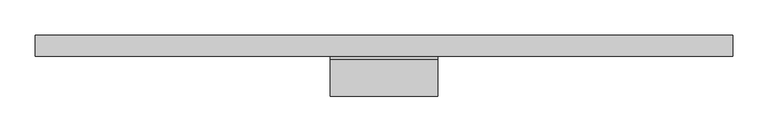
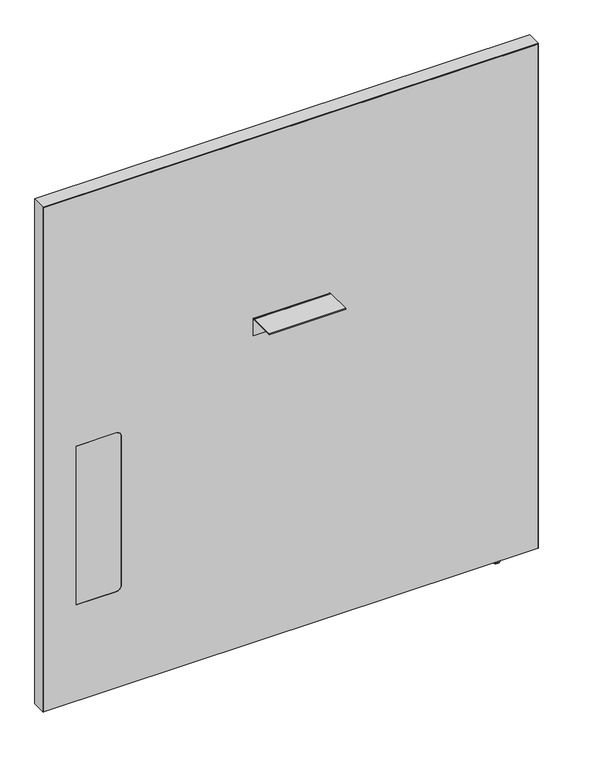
"""IFC4 building model written with IfcOpenShell, lengths in millimetres: furniture geometry, Steelcase - Answer Solution - Boundary Screen - Straight - Single Sided : 42H x 39W."""

from ifc_helpers import new_model, si_unit, point, frame, frame_2d, origin, place, context, project, spatial, polyline, circle_curve, ellipse_curve, trimmed, segment, composite_curve, outline, extrude, source, transform, mapped, element, save
from ifc_brep_helpers import plane_surface, cylinder_surface, revolved_surface, advanced_brep


def furniture_4b46f2a4(model_context):
    return source(origin(), model_context, "Body", "SolidModel", [
        extrude(outline(composite_curve([segment(polyline([(-86.8398151, 696.4680019), (-86.8398151, 698.5), (-34.9450855, 698.5)]), True, "CONTINUOUS"), segment(trimmed(circle_curve(frame_2d((-34.9450855, 693.2447477)), 5.2552523), [point((-34.9450855, 698.5))], [point((-29.6898332, 693.2447477))], False, "CARTESIAN"), True, "CONTINUOUS"), segment(polyline([(-29.6898332, 693.2447477), (-29.6898332, 660.4), (-31.7218162, 660.4), (-31.7218162, 693.0058743)]), True, "CONTINUOUS"), segment(trimmed(circle_curve(frame_2d((-35.1839438, 693.0058743)), 3.4621276), [point((-31.7218162, 693.0058743))], [point((-35.1839438, 696.4680019))], True, "CARTESIAN"), True, "CONTINUOUS"), segment(polyline([(-35.1839438, 696.4680019), (-86.8398151, 696.4680019)]), True, "CONTINUOUS")], self_intersect=False)), frame((-227.3808593, 0.0, 0.0), z_axis=(1.0, 0.0, 0.0), x_axis=(0.0, 1.0, 0.0)), (0.0, 0.0, 1.0), 152.4000969),
        advanced_brep(
        [(266.9286488, -23.7588726, 9.9059849), (266.9286488, -5.9309607, 9.9059849), (266.9286488, -14.8449166, 9.9059849), (266.9286488, -23.7588726, 2.9673238), (266.9286488, -5.9309607, 2.9673238), (266.9286488, -22.7915354, 2.9673238), (266.9286488, -6.8982978, 2.9673238), (266.9286488, -22.7915354, 1.6569081), (266.9286488, -6.8982978, 1.6569081), (266.9286488, -21.1346274, 0.0), (266.9286488, -8.5552059, 0.0), (266.9286488, -14.8449166, 0.0)],
        [
            (0, 1, circle_curve(frame((266.9286488, -14.8449166, 9.9059849), z_axis=(0.0, 0.0, 1.0), x_axis=(0.0, 1.0, 0.0)), 8.913956)),
            (1, 2),
            (2, 0),
            (1, 0, circle_curve(frame((266.9286488, -14.8449166, 9.9059849), z_axis=(0.0, 0.0, 1.0), x_axis=(0.0, 1.0, 0.0)), 8.913956)),
            (3, 4, circle_curve(frame((266.9286488, -14.8449166, 2.9673238), z_axis=(0.0, 0.0, 1.0), x_axis=(0.0, 1.0, 0.0)), 8.913956)),
            (4, 1),
            (0, 3),
            (4, 3, circle_curve(frame((266.9286488, -14.8449166, 2.9673238), z_axis=(0.0, 0.0, 1.0), x_axis=(0.0, 1.0, 0.0)), 8.913956)),
            (5, 6, circle_curve(frame((266.9286488, -14.8449166, 2.9673238), z_axis=(0.0, 0.0, 1.0), x_axis=(0.0, 1.0, 0.0)), 7.9466188)),
            (6, 4),
            (3, 5),
            (6, 5, circle_curve(frame((266.9286488, -14.8449166, 2.9673238), z_axis=(0.0, 0.0, 1.0), x_axis=(0.0, 1.0, 0.0)), 7.9466188)),
            (7, 8, circle_curve(frame((266.9286488, -14.8449166, 1.6569081), z_axis=(0.0, 0.0, 1.0), x_axis=(0.0, 1.0, 0.0)), 7.9466188)),
            (8, 6),
            (5, 7),
            (8, 7, circle_curve(frame((266.9286488, -14.8449166, 1.6569081), z_axis=(0.0, 0.0, 1.0), x_axis=(0.0, 1.0, 0.0)), 7.9466188)),
            (9, 10, circle_curve(frame((266.9286488, -14.8449166, 0.0), z_axis=(0.0, 0.0, 1.0), x_axis=(0.0, 1.0, 0.0)), 6.2897107)),
            (10, 8, circle_curve(frame((266.9286488, -8.5552059, 1.6569081), z_axis=(1.0, 0.0, 0.0), x_axis=(0.0, 1.0, 0.0)), 1.6569081)),
            (7, 9, circle_curve(frame((266.9286488, -21.1346274, 1.6569081), z_axis=(1.0, 0.0, 0.0), x_axis=(0.0, -1.0, 0.0)), 1.6569081)),
            (10, 9, circle_curve(frame((266.9286488, -14.8449166, 0.0), z_axis=(0.0, 0.0, 1.0), x_axis=(0.0, 1.0, 0.0)), 6.2897107)),
            (11, 10),
            (9, 11),
        ],
        [
            plane_surface(frame((266.9286488, -14.8449166, 9.9059849), z_axis=(0.0, 0.0, 1.0), x_axis=(0.0, 1.0, 0.0))),
            cylinder_surface(frame((266.9286488, -14.8449166, 9.9059849), z_axis=(0.0, 0.0, -1.0), x_axis=(0.0, 1.0, 0.0)), 8.913956),
            plane_surface(frame((266.9286488, -14.8449166, 2.9673238), z_axis=(0.0, 0.0, -1.0), x_axis=(0.0, 1.0, 0.0))),
            cylinder_surface(frame((266.9286488, -14.8449166, 9.9059849), z_axis=(0.0, 0.0, -1.0), x_axis=(0.0, 1.0, 0.0)), 7.9466188),
            revolved_surface(trimmed(ellipse_curve(frame((266.9286488, -8.5552059, 1.6569081), z_axis=(-1.0, 0.0, 0.0), x_axis=(0.0, 1.0, 0.0)), 1.6569081, 1.6569081), [point((266.9286488, -6.8982978, 1.6569081))], [point((266.9286488, -8.5552059, 0.0))], True, "CARTESIAN"), (266.9286488, -14.8449166, 9.9059849), (0.0, 0.0, -1.0)),
            plane_surface(frame((266.9286488, -14.8449166, 0.0), z_axis=(0.0, 0.0, -1.0), x_axis=(0.0, 1.0, 0.0))),
        ],
        [
            (0, [[1, 2, 3]]),
            (0, [[4, -3, -2]]),
            (1, [[5, 6, -1, 7]]),
            (1, [[8, -7, -4, -6]]),
            (2, [[9, 10, -5, 11]]),
            (2, [[12, -11, -8, -10]]),
            (3, [[13, 14, -9, 15]]),
            (3, [[16, -15, -12, -14]]),
            (4, [[17, 18, -13, 19]]),
            (4, [[20, -19, -16, -18]]),
            (5, [[21, -17, 22]]),
            (5, [[-22, -20, -21]]),
        ],
    ),
        advanced_brep(
        [(343.0780168, 0.0, 1076.742118), (343.0780168, 0.0, 9.9059849), (-645.4902221, 0.0, 9.9059849), (-645.4902221, 0.0, 1076.742118), (343.0780168, -29.6898332, 1076.742118), (-645.4902221, -29.6898332, 1076.742118), (-645.4902221, -29.6898332, 9.9059849), (343.0780168, -29.6898332, 9.9059849), (-501.1463873, -29.6898332, 549.6162029), (-490.9863873, -29.6898332, 539.4562029), (-490.9863873, -29.6898332, 223.9362137), (-501.1463873, -29.6898332, 213.7762137), (-580.800285, -29.6898332, 213.7762137), (-580.800285, -29.6898332, 549.6162029), (-580.800285, -29.0550397, 549.6162029), (-501.1463873, -29.0550397, 549.6162029), (-580.800285, -29.0550397, 213.7762137), (-501.1463873, -29.0550397, 213.7762137), (-490.9863873, -29.0550397, 223.9362137), (-490.9863873, -29.0550397, 539.4562029)],
        [
            (0, 1),
            (1, 2),
            (2, 3),
            (3, 0),
            (4, 5),
            (5, 6),
            (6, 7),
            (7, 4),
            (8, 9, circle_curve(frame((-501.1463873, -29.6898332, 539.4562029), z_axis=(0.0, 1.0, 0.0), x_axis=(0.0, 0.0, 1.0)), 10.16)),
            (9, 10),
            (10, 11, circle_curve(frame((-501.1463873, -29.6898332, 223.9362137), z_axis=(0.0, 1.0, 0.0), x_axis=(0.0, 0.0, 1.0)), 10.16)),
            (11, 12),
            (12, 13),
            (13, 8),
            (0, 4),
            (7, 1),
            (6, 2),
            (5, 3),
            (13, 14),
            (14, 15),
            (15, 8),
            (12, 16),
            (16, 14),
            (11, 17),
            (17, 16),
            (10, 18),
            (18, 17, circle_curve(frame((-501.1463873, -29.0550397, 223.9362137), z_axis=(0.0, 1.0, 0.0), x_axis=(0.0, 0.0, 1.0)), 10.16)),
            (9, 19),
            (19, 18),
            (15, 19, circle_curve(frame((-501.1463873, -29.0550397, 539.4562029), z_axis=(0.0, 1.0, 0.0), x_axis=(0.0, 0.0, 1.0)), 10.16)),
        ],
        [
            plane_surface(frame((343.0780168, 0.0, 1076.742118), z_axis=(0.0, 1.0, 0.0), x_axis=(0.0, 0.0, -1.0))),
            plane_surface(frame((343.0780168, -29.6898332, 1076.742118), z_axis=(0.0, -1.0, 0.0), x_axis=(0.0, 0.0, 1.0))),
            plane_surface(frame((343.0780168, 0.0, 1076.742118), z_axis=(1.0, 0.0, 0.0), x_axis=(0.0, -1.0, 0.0))),
            plane_surface(frame((343.0780168, 0.0, 9.9059849), z_axis=(0.0, 0.0, -1.0), x_axis=(0.0, -1.0, 0.0))),
            plane_surface(frame((-645.4902221, 0.0, 9.9059849), z_axis=(-1.0, 0.0, 0.0), x_axis=(0.0, -1.0, 0.0))),
            plane_surface(frame((-645.4902221, 0.0, 1076.742118), z_axis=(0.0, 0.0, 1.0), x_axis=(0.0, -1.0, 0.0))),
            plane_surface(frame((-501.1463873, 0.0, 549.6162029), z_axis=(0.0, 0.0, -1.0), x_axis=(0.0, -1.0, 0.0))),
            plane_surface(frame((-580.800285, 0.0, 549.6162029), z_axis=(1.0, 0.0, 0.0), x_axis=(0.0, -1.0, 0.0))),
            plane_surface(frame((-580.800285, 0.0, 213.7762137), z_axis=(0.0, 0.0, 1.0), x_axis=(0.0, -1.0, 0.0))),
            revolved_surface(polyline([(-501.1463873, -29.6898332, 234.0962137), (-501.1463873, -29.0550397, 234.0962137)]), (-501.1463873, -29.6898332, 223.9362137), (0.0, -1.0, 0.0)),
            plane_surface(frame((-490.9863873, 0.0, 223.9362137), z_axis=(-1.0, 0.0, 0.0), x_axis=(0.0, -1.0, 0.0))),
            revolved_surface(polyline([(-501.1463873, -29.6898332, 549.6162029), (-501.1463873, -29.0550397, 549.6162029)]), (-501.1463873, -29.6898332, 539.4562029), (0.0, -1.0, 0.0)),
            plane_surface(frame((-490.9863873, -29.0550397, 629.172953), z_axis=(0.0, -1.0, 0.0), x_axis=(0.0, 0.0, 1.0))),
        ],
        [
            (0, [[1, 2, 3, 4]]),
            (1, [[5, 6, 7, 8], [9, 10, 11, 12, 13, 14]]),
            (2, [[-1, 15, -8, 16]]),
            (3, [[-2, -16, -7, 17]]),
            (4, [[-3, -17, -6, 18]]),
            (5, [[-4, -18, -5, -15]]),
            (6, [[-14, 19, 20, 21]]),
            (7, [[-13, 22, 23, -19]]),
            (8, [[-12, 24, 25, -22]]),
            (9, [[-11, 26, 27, -24]]),
            (10, [[-10, 28, 29, -26]]),
            (11, [[-9, -21, 30, -28]]),
            (12, [[-20, -23, -25, -27, -29, -30]]),
        ],
    ),
        extrude(outline(composite_curve([segment(polyline([(549.6162029, -501.1463873), (549.6162029, -580.800285), (213.7762137, -580.800285), (213.7762137, -501.1463873)]), True, "CONTINUOUS"), segment(trimmed(circle_curve(frame_2d((223.9362137, -501.1463873)), 10.16), [point((213.7762137, -501.1463873))], [point((223.9362137, -490.9863873))], False, "CARTESIAN"), True, "CONTINUOUS"), segment(polyline([(223.9362137, -490.9863873), (539.4562029, -490.9863873)]), True, "CONTINUOUS"), segment(trimmed(circle_curve(frame_2d((539.4562029, -501.1463873)), 10.16), [point((539.4562029, -490.9863873))], [point((549.6162029, -501.1463873))], False, "CARTESIAN"), True, "CONTINUOUS")], self_intersect=False)), frame((0.0, -29.6898332, 0.0), z_axis=(0.0, 1.0, 0.0), x_axis=(0.0, 0.0, 1.0)), (0.0, 0.0, 1.0), 0.6347935),
        extrude(outline(polyline([(1077.722, 344.1191891), (1077.722, -646.4808109), (9.9059849, -646.4808109), (9.9059849, -645.4902221), (1076.742118, -645.4902221), (1076.742118, 343.0780168), (9.9059849, 343.0780168), (9.9059849, 344.1191891), (1077.722, 344.1191891)])), frame((0.0, -29.6898332, 0.0), z_axis=(0.0, 1.0, 0.0), x_axis=(0.0, 0.0, 1.0)), (0.0, 0.0, 1.0), 29.6898332),
    ])


if __name__ == "__main__":
    model = new_model("IFC4")
    model_context = context("Model", 3, world=origin())
    ifc_project = project(units=[si_unit("LENGTHUNIT", "METRE", prefix="MILLI")], contexts=[model_context])
    site = spatial("IfcSite", under=ifc_project)
    building = spatial("IfcBuilding", under=site)
    placement = place(None, origin())
    furniture_shape = furniture_4b46f2a4(model_context)
    element("IfcFurniture", 1, ObjectType="Steelcase - Answer Solution - Boundary Screen - Straight - Single Sided : 42H x 39W", at=placement, inside=building, context=model_context, shape_type="MappedRepresentation", body=[
        mapped(furniture_shape, transform((0.0, 0.0, 0.0), x_axis=(1.0, 0.0, 0.0), y_axis=(0.0, 1.0, 0.0), z_axis=(0.0, 0.0, 1.0))),
    ])
    save(model, "model.ifc")
